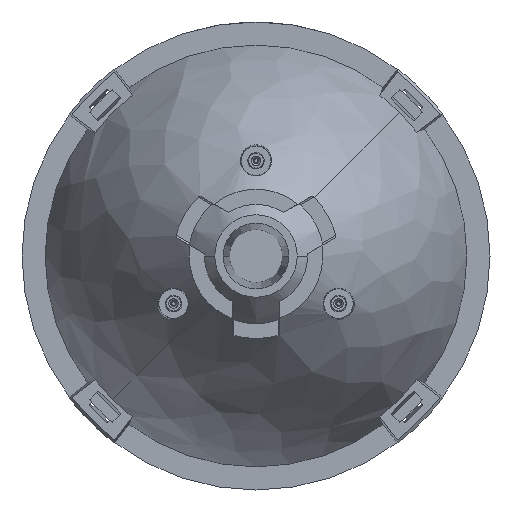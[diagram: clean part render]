
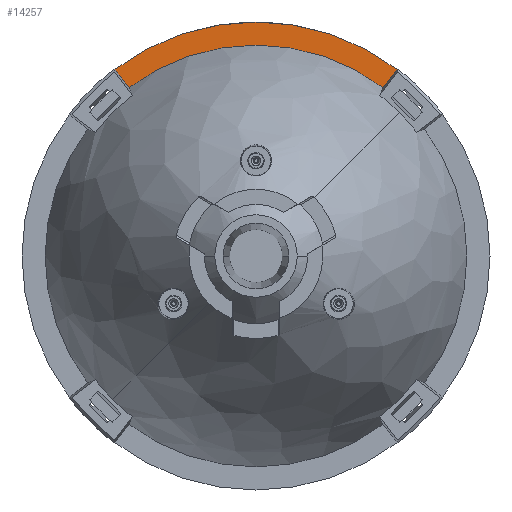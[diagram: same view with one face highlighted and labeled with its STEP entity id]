
A CAD part, front view. The second image highlights one B-rep face of the part: STEP entity #14257.
In plain terms, the highlighted planar face has unit normal (0, -1, 0).
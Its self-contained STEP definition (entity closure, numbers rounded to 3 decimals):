
#676 = ORIENTED_EDGE ( 'NONE', *, *, #9486, .T. ) ;
#677 = ORIENTED_EDGE ( 'NONE', *, *, #8813, .T. ) ;
#678 = ORIENTED_EDGE ( 'NONE', *, *, #9551, .F. ) ;
#679 = ORIENTED_EDGE ( 'NONE', *, *, #9488, .F. ) ;
#2742 = FACE_OUTER_BOUND ( 'NONE', #12369, .T. ) ;
#2743 = PLANE ( 'NONE',  #4275 ) ;
#2753 = CARTESIAN_POINT ( 'NONE',  ( 17.444, -2., 22.734 ) ) ;
#2754 = DIRECTION ( 'NONE',  ( 0., -1., 0. ) ) ;
#2755 = DIRECTION ( 'NONE',  ( -0.707, 0., -0.707 ) ) ;
#4016 = VERTEX_POINT ( 'NONE', #9020 ) ;
#4017 = VERTEX_POINT ( 'NONE', #9021 ) ;
#4035 = VERTEX_POINT ( 'NONE', #9064 ) ;
#4090 = VERTEX_POINT ( 'NONE', #8936 ) ;
#4275 = AXIS2_PLACEMENT_3D ( 'NONE', #2753, #2754, #2755 ) ;
#4698 = CARTESIAN_POINT ( 'NONE',  ( 0., -2., 0. ) ) ;
#4700 = DIRECTION ( 'NONE',  ( 0., -1., 0. ) ) ;
#4701 = DIRECTION ( 'NONE',  ( -0.707, 0., -0.707 ) ) ;
#7596 = LINE ( 'NONE', #7597, #14483 ) ;
#7597 = CARTESIAN_POINT ( 'NONE',  ( 17.277, -2., 22.861 ) ) ;
#7598 = DIRECTION ( 'NONE',  ( 0.609, 0., 0.793 ) ) ;
#7603 = CARTESIAN_POINT ( 'NONE',  ( 0., -2., 0. ) ) ;
#7604 = DIRECTION ( 'NONE',  ( 0., -1., 0. ) ) ;
#7605 = DIRECTION ( 'NONE',  ( 0.707, 0., 0.707 ) ) ;
#8549 = AXIS2_PLACEMENT_3D ( 'NONE', #4698, #4700, #4701 ) ;
#8555 = CIRCLE ( 'NONE', #8549, 31.802 ) ;
#8813 = EDGE_CURVE ( 'NONE', #4090, #4035, #8555, .T. ) ;
#8936 = CARTESIAN_POINT ( 'NONE',  ( 19.193, -2., 25.358 ) ) ;
#9020 = CARTESIAN_POINT ( 'NONE',  ( -17.277, -2., 22.861 ) ) ;
#9021 = CARTESIAN_POINT ( 'NONE',  ( 17.277, -2., 22.861 ) ) ;
#9064 = CARTESIAN_POINT ( 'NONE',  ( -19.193, -2., 25.358 ) ) ;
#9486 = EDGE_CURVE ( 'NONE', #4017, #4090, #7596, .T. ) ;
#9488 = EDGE_CURVE ( 'NONE', #4017, #4016, #14486, .T. ) ;
#9551 = EDGE_CURVE ( 'NONE', #4016, #4035, #11426, .T. ) ;
#11426 = LINE ( 'NONE', #11427, #14510 ) ;
#11427 = CARTESIAN_POINT ( 'NONE',  ( 0.166, -2., 0.128 ) ) ;
#11428 = DIRECTION ( 'NONE',  ( -0.609, 0., 0.793 ) ) ;
#12369 = EDGE_LOOP ( 'NONE', ( #678, #679, #676, #677 ) ) ;
#14257 = ADVANCED_FACE ( 'NONE', ( #2742 ), #2743, .T. ) ;
#14483 = VECTOR ( 'NONE', #7598, 1000. ) ;
#14486 = CIRCLE ( 'NONE', #14493, 28.655 ) ;
#14493 = AXIS2_PLACEMENT_3D ( 'NONE', #7603, #7604, #7605 ) ;
#14510 = VECTOR ( 'NONE', #11428, 1000. ) ;
